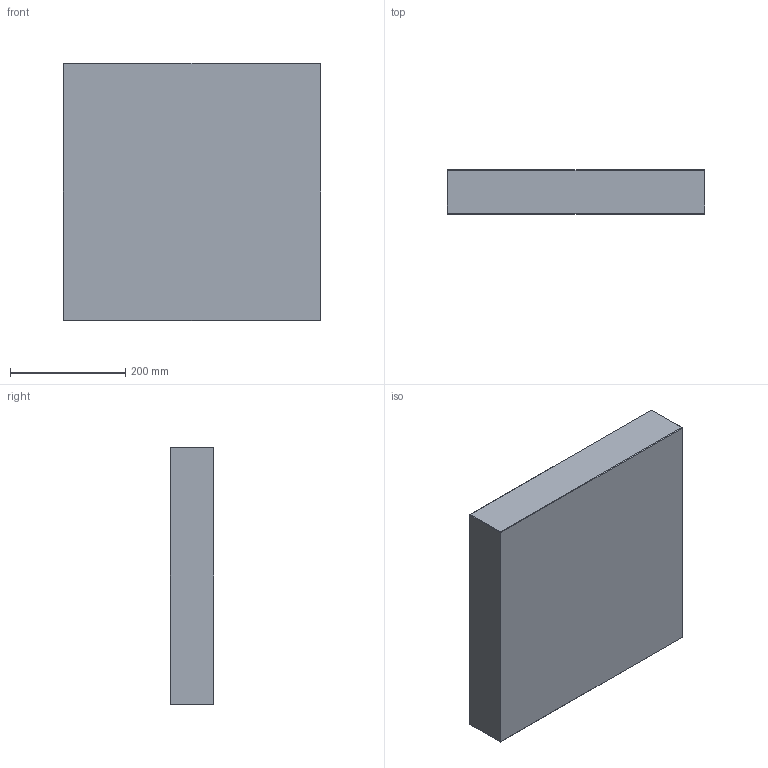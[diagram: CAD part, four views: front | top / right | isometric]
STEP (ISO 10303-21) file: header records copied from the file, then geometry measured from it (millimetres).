
FILE_DESCRIPTION (( 'STEP AP214' ), '1' );
FILE_NAME ('PC-P-446x446x76.STEP', '2020-04-01T11:06:55', ( 'August' ), ( '' ), 'SwSTEP 2.0', 'SolidWorks 2018', '' );
FILE_SCHEMA (( 'AUTOMOTIVE_DESIGN' ));
Length unit declared in the file: millimetre
Products named in the file (1): PC-P-446x446x76
Bounding box: 446 x 76 x 446 mm (x, y, z)
Volume: 15115685.3 mm3; surface area: 531144.8 mm2
Topology: 1 solids, 1 shells, 26 faces, 48 edges, 24 vertices
Faces by surface type: plane 26
Entity records: 634 total; most frequent: DIRECTION 102, CARTESIAN_POINT 99, ORIENTED_EDGE 96, EDGE_CURVE 48, LINE 48, VECTOR 48, AXIS2_PLACEMENT_3D 27, FACE_OUTER_BOUND 26
